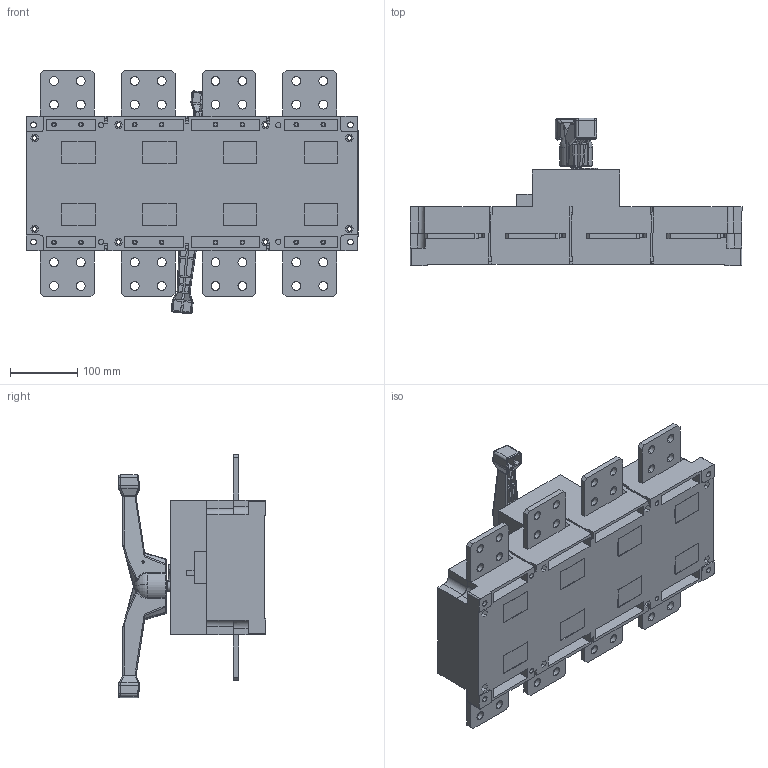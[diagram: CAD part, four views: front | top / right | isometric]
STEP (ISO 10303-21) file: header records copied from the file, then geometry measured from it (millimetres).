
FILE_DESCRIPTION (( 'STEP AP203' ), '1' );
FILE_NAME ('DNH8(HGL)-12504蚾饜尨砩芞.STEP', '2021-12-02T04:38:27', ( '' ), ( '' ), 'SwSTEP 2.0', 'SolidWorks 2019', '' );
FILE_SCHEMA (( 'CONFIG_CONTROL_DESIGN' ));
Products named in the file (1): DNH8(HGL)-12504蚾饜尨砩芞
Bounding box: 493 x 218.74 x 361.52 mm (x, y, z)
Volume: 9707073 mm3; surface area: 754111.3 mm2
Topology: 3 solids, 19 shells, 1895 faces, 4828 edges, 3086 vertices
Faces by surface type: plane 1337, cylinder 369, cone 97, bspline 72, torus 20
Entity records: 58952 total; most frequent: CARTESIAN_POINT 13119, ORIENTED_EDGE 9606, DIRECTION 9111, EDGE_CURVE 4803, LINE 3659, VECTOR 3659, VERTEX_POINT 3086, AXIS2_PLACEMENT_3D 2726
